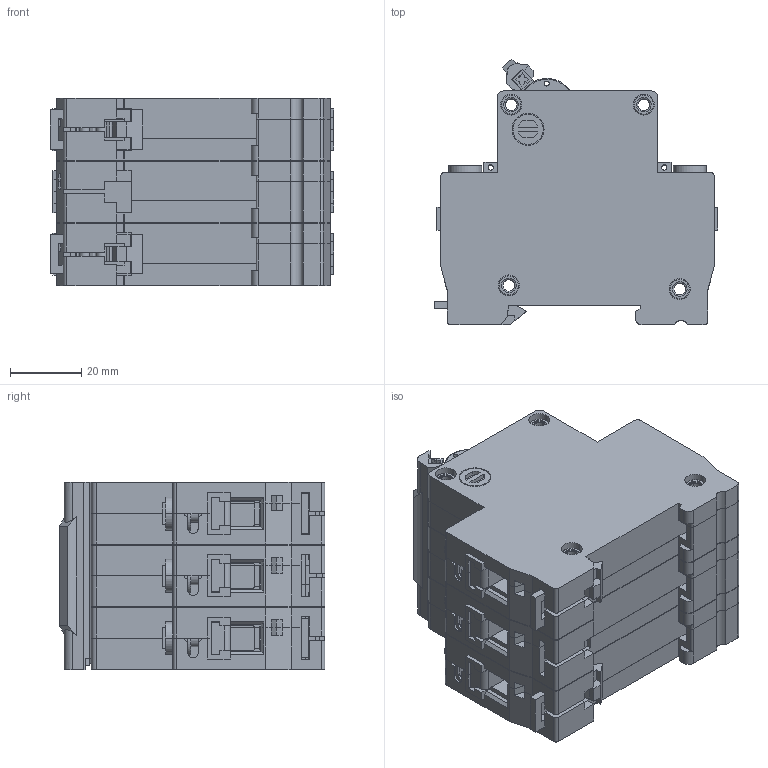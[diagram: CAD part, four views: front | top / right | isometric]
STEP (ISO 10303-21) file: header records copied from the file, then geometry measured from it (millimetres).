
FILE_DESCRIPTION (( 'STEP AP214' ), '1' );
FILE_NAME ('臍47-29 3 瀁錌黟.STEP', '2022-11-18T09:57:03', ( '' ), ( '' ), 'SwSTEP 2.0', 'SolidWorks 2018', '' );
FILE_SCHEMA (( 'AUTOMOTIVE_DESIGN' ));
Length unit declared in the file: millimetre
Products named in the file (14): 青汶篪赅 (吕47-29) 14.02.2022; ﾂﾀ47-29 1ﾕ Changan 04.2022_｡･ｧ ｧ鬣ｫｪｨ; 青觌屣赅 (吕47-29 OFA) 04.2022_3 釥; 鎔艜 (臍47-29) 14.02.2022; Êîëîäêà (ÂÀ47-29) 14.02.2022; ﾂ鏆鮏 (ﾂﾀ47-29 OFA) 14.02.2022; Çàùåëêà (ÂÀ47-29 Changan) 04.2022; Ñêîáà (ÂÀ47-29 OFA) 04.2022_3 ¯®«îá ; 臍47-29 3 瀁錌黟; Ðó÷êà (ÂÀ47-29 Changan) 04.2022; Áîêîâèíà ëåâàÿ (ÂÀ47-29 Changan) 04.2022; ﾂﾀ47-29 1ﾕ Changan 04.2022_尚皚･､ｭｨｩ ｯｮｫ髜; Áîêîâèíà ïðàâàÿ (ÂÀ47-29 Changan) 04.2022; ÂÀ47-29 1Õ Changan 04.2022_1 ¤«ï 3
Assembly tree (43 placements, depth 3):
  臍47-29 3 瀁錌黟
    ÂÀ47-29 1Õ Changan 04.2022_1 ¤«ï 3
      Áîêîâèíà ïðàâàÿ (ÂÀ47-29 Changan) 04.2022
      Áîêîâèíà ëåâàÿ (ÂÀ47-29 Changan) 04.2022
      Çàùåëêà (ÂÀ47-29 Changan) 04.2022
      Ðó÷êà (ÂÀ47-29 Changan) 04.2022
      青觌屣赅 (吕47-29 OFA) 04.2022_3 釥  x4
      青汶篪赅 (吕47-29) 14.02.2022  x2
      鎔艜 (臍47-29) 14.02.2022  x2
      ﾂ鏆鮏 (ﾂﾀ47-29 OFA) 14.02.2022  x2
      Êîëîäêà (ÂÀ47-29) 14.02.2022  x2
    ﾂﾀ47-29 1ﾕ Changan 04.2022_｡･ｧ ｧ鬣ｫｪｨ
      Áîêîâèíà ïðàâàÿ (ÂÀ47-29 Changan) 04.2022
      Áîêîâèíà ëåâàÿ (ÂÀ47-29 Changan) 04.2022
      Ðó÷êà (ÂÀ47-29 Changan) 04.2022
      青汶篪赅 (吕47-29) 14.02.2022  x2
      鎔艜 (臍47-29) 14.02.2022  x2
      ﾂ鏆鮏 (ﾂﾀ47-29 OFA) 14.02.2022  x2
      Êîëîäêà (ÂÀ47-29) 14.02.2022  x2
    ﾂﾀ47-29 1ﾕ Changan 04.2022_尚皚･､ｭｨｩ ｯｮｫ髜
      Áîêîâèíà ïðàâàÿ (ÂÀ47-29 Changan) 04.2022
      Áîêîâèíà ëåâàÿ (ÂÀ47-29 Changan) 04.2022
      Çàùåëêà (ÂÀ47-29 Changan) 04.2022
      Ðó÷êà (ÂÀ47-29 Changan) 04.2022
      青汶篪赅 (吕47-29) 14.02.2022  x2
      鎔艜 (臍47-29) 14.02.2022  x2
      ﾂ鏆鮏 (ﾂﾀ47-29 OFA) 14.02.2022  x2
      Êîëîäêà (ÂÀ47-29) 14.02.2022  x2
    Ñêîáà (ÂÀ47-29 OFA) 04.2022_3 ¯®«îá 
Bounding box: 79.83 x 74.7 x 52.8 mm (x, y, z)
Volume: 186619.4 mm3; surface area: 102328.7 mm2
Topology: 40 solids, 40 shells, 2623 faces, 7080 edges, 4575 vertices
Faces by surface type: plane 1908, cylinder 637, torus 78
Entity records: 23247 total; most frequent: CARTESIAN_POINT 4089, ORIENTED_EDGE 3898, DIRECTION 3837, EDGE_CURVE 1949, VECTOR 1511, LINE 1511, VERTEX_POINT 1271, AXIS2_PLACEMENT_3D 1163
